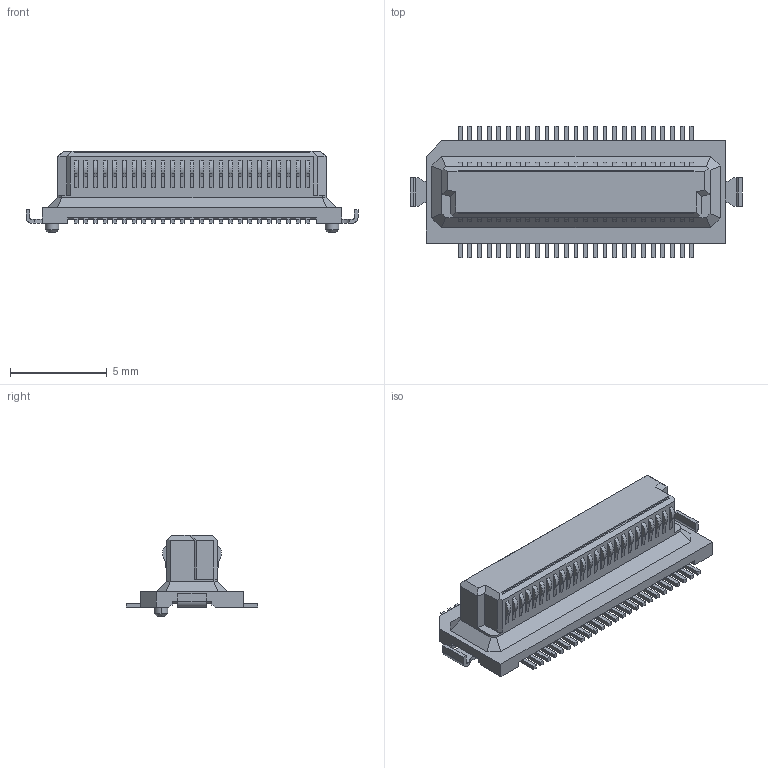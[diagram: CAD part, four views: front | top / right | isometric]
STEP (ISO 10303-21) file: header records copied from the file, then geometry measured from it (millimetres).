
FILE_DESCRIPTION(('Creo Elements/Direct Modeling STEP Export'),'2;1');
FILE_NAME('P3E292_DY11-050SB-1-T-H.stp','2022-03-01T11:05:05',(''),(''),'Creo Elements/Direct Modeling STEP processor for AP214 (Solid Model)','Creo Elements/Direct Modeling 20.4A 18-Oct-2021 (C) Parametric Technology GmbH','');
FILE_SCHEMA(('AUTOMOTIVE_DESIGN { 1 0 10303 214 1 1 1 1 }'));
Length unit declared in the file: millimetre
Products named in the file (2): P3E292_DY11-050SB-1-T-H
Assembly tree (1 placements, depth 2):
  P3E292_DY11-050SB-1-T-H
    P3E292_DY11-050SB-1-T-H
Bounding box: 17.2 x 6.8 x 4.23 mm (x, y, z)
Volume: 160.3 mm3; surface area: 362 mm2
Topology: 1 solids, 1 shells, 834 faces, 2151 edges, 1422 vertices
Faces by surface type: plane 664, cylinder 166, cone 4
Entity records: 25093 total; most frequent: CARTESIAN_POINT 4393, ORIENTED_EDGE 4302, DIRECTION 4132, EDGE_CURVE 2151, VECTOR 1810, LINE 1810, VERTEX_POINT 1422, AXIS2_PLACEMENT_3D 1161
